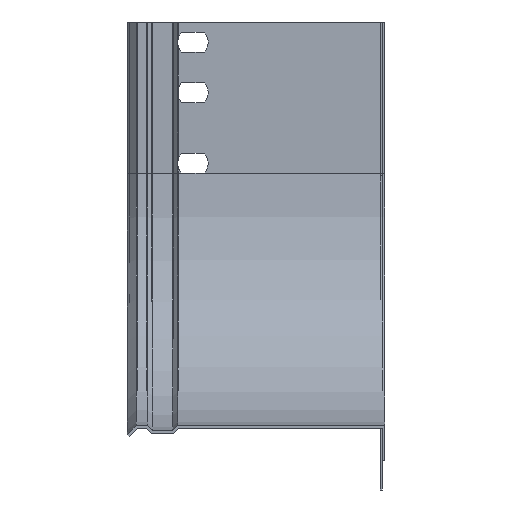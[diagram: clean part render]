
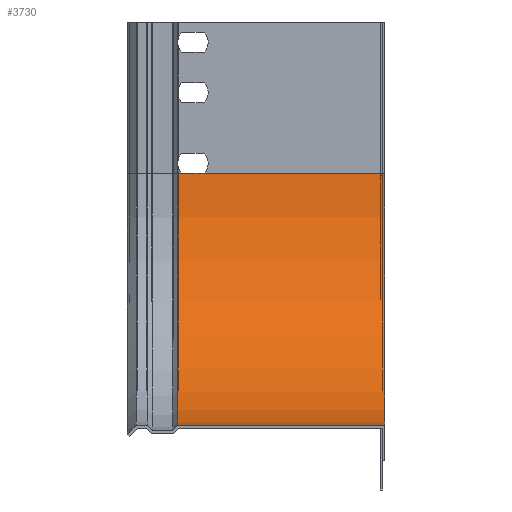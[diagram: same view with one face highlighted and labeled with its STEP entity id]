
A CAD part, left-side view. The second image highlights one B-rep face of the part: STEP entity #3730.
In plain terms, the highlighted cylindrical face has radius 100 mm (diameter 200 mm), a partial arc.
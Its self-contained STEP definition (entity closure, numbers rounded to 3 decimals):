
#33 = AXIS2_PLACEMENT_3D ( 'NONE', #4569, #662, #2076 ) ;
#58 = VERTEX_POINT ( 'NONE', #2704 ) ;
#62 = VERTEX_POINT ( 'NONE', #678 ) ;
#63 = CARTESIAN_POINT ( 'NONE',  ( -60., 80.472, 160. ) ) ;
#104 = VECTOR ( 'NONE', #1737, 1000. ) ;
#241 = DIRECTION ( 'NONE',  ( 0., 1., 0. ) ) ;
#395 = EDGE_CURVE ( 'NONE', #890, #438, #3746, .T. ) ;
#438 = VERTEX_POINT ( 'NONE', #553 ) ;
#467 = CARTESIAN_POINT ( 'NONE',  ( -60., 80.472, 160. ) ) ;
#473 = DIRECTION ( 'NONE',  ( 0., 0., -1. ) ) ;
#498 = CARTESIAN_POINT ( 'NONE',  ( -60., 82., 60. ) ) ;
#553 = CARTESIAN_POINT ( 'NONE',  ( -160., 71.528, 60. ) ) ;
#554 = CIRCLE ( 'NONE', #33, 100. ) ;
#613 = CARTESIAN_POINT ( 'NONE',  ( -60., 0., 160. ) ) ;
#662 = DIRECTION ( 'NONE',  ( 0., -1., 0. ) ) ;
#678 = CARTESIAN_POINT ( 'NONE',  ( -160., 82., 60. ) ) ;
#693 = LINE ( 'NONE', #4238, #931 ) ;
#726 = DIRECTION ( 'NONE',  ( 0., 1., 0. ) ) ;
#806 = EDGE_CURVE ( 'NONE', #3816, #62, #693, .T. ) ;
#811 = ORIENTED_EDGE ( 'NONE', *, *, #4013, .F. ) ;
#835 = CARTESIAN_POINT ( 'NONE',  ( -60., 71.528, 160. ) ) ;
#862 = VECTOR ( 'NONE', #726, 1000. ) ;
#890 = VERTEX_POINT ( 'NONE', #1950 ) ;
#931 = VECTOR ( 'NONE', #1051, 1000. ) ;
#939 = ORIENTED_EDGE ( 'NONE', *, *, #4385, .F. ) ;
#1009 = FACE_OUTER_BOUND ( 'NONE', #1997, .T. ) ;
#1051 = DIRECTION ( 'NONE',  ( 0., 1., 0. ) ) ;
#1609 = CARTESIAN_POINT ( 'NONE',  ( -160., 0., 60. ) ) ;
#1674 = CARTESIAN_POINT ( 'NONE',  ( -60., 0., 160. ) ) ;
#1737 = DIRECTION ( 'NONE',  ( 0., 1., 0. ) ) ;
#1825 = CARTESIAN_POINT ( 'NONE',  ( -160., 80.472, 60. ) ) ;
#1950 = CARTESIAN_POINT ( 'NONE',  ( -160., 0., 60. ) ) ;
#1997 = EDGE_LOOP ( 'NONE', ( #811, #3423, #3982, #2604, #3018, #939, #2066, #4065 ) ) ;
#2035 = LINE ( 'NONE', #3445, #2135 ) ;
#2066 = ORIENTED_EDGE ( 'NONE', *, *, #2506, .F. ) ;
#2070 = VERTEX_POINT ( 'NONE', #835 ) ;
#2076 = DIRECTION ( 'NONE',  ( 0., 0., -1. ) ) ;
#2135 = VECTOR ( 'NONE', #241, 1000. ) ;
#2168 = LINE ( 'NONE', #63, #862 ) ;
#2364 = EDGE_CURVE ( 'NONE', #438, #3816, #2987, .T. ) ;
#2457 = CYLINDRICAL_SURFACE ( 'NONE', #4443, 100. ) ;
#2460 = LINE ( 'NONE', #613, #104 ) ;
#2477 = DIRECTION ( 'NONE',  ( 0., -1., 0. ) ) ;
#2498 = VERTEX_POINT ( 'NONE', #467 ) ;
#2506 = EDGE_CURVE ( 'NONE', #2498, #58, #2460, .T. ) ;
#2536 = EDGE_CURVE ( 'NONE', #4024, #890, #554, .T. ) ;
#2581 = DIRECTION ( 'NONE',  ( 0., -1., 0. ) ) ;
#2604 = ORIENTED_EDGE ( 'NONE', *, *, #2364, .T. ) ;
#2617 = DIRECTION ( 'NONE',  ( 0., 1., 0. ) ) ;
#2635 = VECTOR ( 'NONE', #3706, 1000. ) ;
#2704 = CARTESIAN_POINT ( 'NONE',  ( -60., 82., 160. ) ) ;
#2987 = LINE ( 'NONE', #4105, #3388 ) ;
#3018 = ORIENTED_EDGE ( 'NONE', *, *, #806, .T. ) ;
#3150 = EDGE_CURVE ( 'NONE', #2070, #2498, #2168, .T. ) ;
#3176 = CARTESIAN_POINT ( 'NONE',  ( -60., 0., 60. ) ) ;
#3202 = DIRECTION ( 'NONE',  ( 0., 0., -1. ) ) ;
#3261 = AXIS2_PLACEMENT_3D ( 'NONE', #498, #2581, #473 ) ;
#3388 = VECTOR ( 'NONE', #2617, 1000. ) ;
#3423 = ORIENTED_EDGE ( 'NONE', *, *, #2536, .T. ) ;
#3445 = CARTESIAN_POINT ( 'NONE',  ( -60., 0., 160. ) ) ;
#3706 = DIRECTION ( 'NONE',  ( 0., 1., 0. ) ) ;
#3730 = ADVANCED_FACE ( 'NONE', ( #1009 ), #2457, .F. ) ;
#3746 = LINE ( 'NONE', #1609, #2635 ) ;
#3816 = VERTEX_POINT ( 'NONE', #1825 ) ;
#3926 = CIRCLE ( 'NONE', #3261, 100. ) ;
#3982 = ORIENTED_EDGE ( 'NONE', *, *, #395, .T. ) ;
#4013 = EDGE_CURVE ( 'NONE', #4024, #2070, #2035, .T. ) ;
#4024 = VERTEX_POINT ( 'NONE', #1674 ) ;
#4065 = ORIENTED_EDGE ( 'NONE', *, *, #3150, .F. ) ;
#4105 = CARTESIAN_POINT ( 'NONE',  ( -160., 80.472, 60. ) ) ;
#4238 = CARTESIAN_POINT ( 'NONE',  ( -160., 0., 60. ) ) ;
#4385 = EDGE_CURVE ( 'NONE', #58, #62, #3926, .T. ) ;
#4443 = AXIS2_PLACEMENT_3D ( 'NONE', #3176, #2477, #3202 ) ;
#4569 = CARTESIAN_POINT ( 'NONE',  ( -60., 0., 60. ) ) ;
